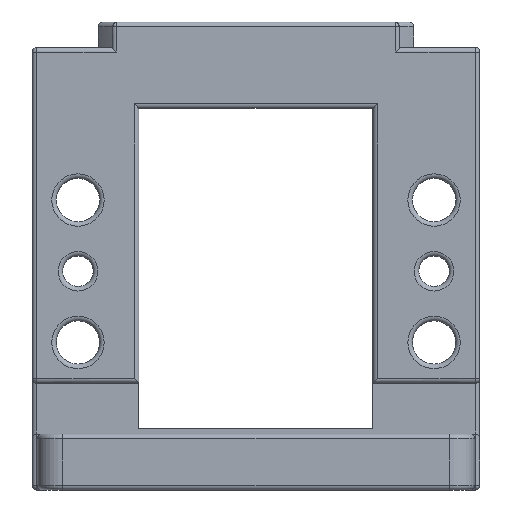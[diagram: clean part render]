
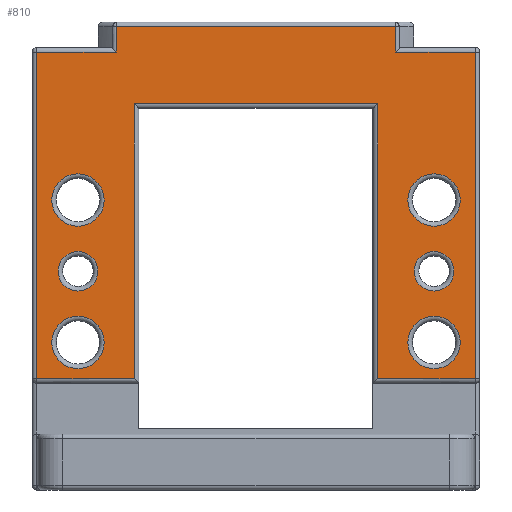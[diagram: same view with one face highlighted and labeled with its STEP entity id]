
A CAD part, front view. The second image highlights one B-rep face of the part: STEP entity #810.
In plain terms, the highlighted planar face has unit normal (0, -1, 0).
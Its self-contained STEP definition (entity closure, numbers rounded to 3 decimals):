
#810=ADVANCED_FACE('',(#1900,#1901,#1902,#1903,#1904,#1905,#1906),#1055,
 .F.);
#1055=PLANE('',#5127);
#1246=LINE('',#6920,#1521);
#1247=LINE('',#6923,#1522);
#1248=LINE('',#6925,#1523);
#1249=LINE('',#6927,#1524);
#1250=LINE('',#6929,#1525);
#1251=LINE('',#6931,#1526);
#1252=LINE('',#6933,#1527);
#1253=LINE('',#6935,#1528);
#1254=LINE('',#6937,#1529);
#1255=LINE('',#6939,#1530);
#1256=LINE('',#6941,#1531);
#1257=LINE('',#6943,#1532);
#1521=VECTOR('',#5728,1.);
#1522=VECTOR('',#5729,1.);
#1523=VECTOR('',#5730,1.);
#1524=VECTOR('',#5731,1.);
#1525=VECTOR('',#5732,1.);
#1526=VECTOR('',#5733,1.);
#1527=VECTOR('',#5734,1.);
#1528=VECTOR('',#5735,1.);
#1529=VECTOR('',#5736,1.);
#1530=VECTOR('',#5737,1.);
#1531=VECTOR('',#5738,1.);
#1532=VECTOR('',#5739,1.);
#1900=FACE_BOUND('',#2076,.T.);
#1901=FACE_BOUND('',#2077,.T.);
#1902=FACE_BOUND('',#2078,.T.);
#1903=FACE_BOUND('',#2079,.T.);
#1904=FACE_BOUND('',#2080,.T.);
#1905=FACE_BOUND('',#2081,.T.);
#1906=FACE_BOUND('',#2082,.T.);
#2076=EDGE_LOOP('',(#2528));
#2077=EDGE_LOOP('',(#2529));
#2078=EDGE_LOOP('',(#2530));
#2079=EDGE_LOOP('',(#2531));
#2080=EDGE_LOOP('',(#2532));
#2081=EDGE_LOOP('',(#2533));
#2082=EDGE_LOOP('',(#2534,#2535,#2536,#2537,#2538,#2539,#2540,#2541,#2542,
#2543,#2544,#2545));
#2528=ORIENTED_EDGE('',*,*,#4196,.T.);
#2529=ORIENTED_EDGE('',*,*,#4194,.T.);
#2530=ORIENTED_EDGE('',*,*,#4192,.T.);
#2531=ORIENTED_EDGE('',*,*,#4190,.T.);
#2532=ORIENTED_EDGE('',*,*,#4188,.T.);
#2533=ORIENTED_EDGE('',*,*,#4186,.T.);
#2534=ORIENTED_EDGE('',*,*,#4290,.T.);
#2535=ORIENTED_EDGE('',*,*,#4291,.T.);
#2536=ORIENTED_EDGE('',*,*,#4292,.T.);
#2537=ORIENTED_EDGE('',*,*,#4293,.T.);
#2538=ORIENTED_EDGE('',*,*,#4294,.T.);
#2539=ORIENTED_EDGE('',*,*,#4295,.T.);
#2540=ORIENTED_EDGE('',*,*,#4296,.T.);
#2541=ORIENTED_EDGE('',*,*,#4297,.T.);
#2542=ORIENTED_EDGE('',*,*,#4298,.T.);
#2543=ORIENTED_EDGE('',*,*,#4299,.T.);
#2544=ORIENTED_EDGE('',*,*,#4300,.T.);
#2545=ORIENTED_EDGE('',*,*,#4301,.T.);
#3733=VERTEX_POINT('',#6636);
#3735=VERTEX_POINT('',#6641);
#3737=VERTEX_POINT('',#6646);
#3739=VERTEX_POINT('',#6651);
#3741=VERTEX_POINT('',#6656);
#3743=VERTEX_POINT('',#6661);
#3837=VERTEX_POINT('',#6921);
#3838=VERTEX_POINT('',#6922);
#3839=VERTEX_POINT('',#6924);
#3840=VERTEX_POINT('',#6926);
#3841=VERTEX_POINT('',#6928);
#3842=VERTEX_POINT('',#6930);
#3843=VERTEX_POINT('',#6932);
#3844=VERTEX_POINT('',#6934);
#3845=VERTEX_POINT('',#6936);
#3846=VERTEX_POINT('',#6938);
#3847=VERTEX_POINT('',#6940);
#3848=VERTEX_POINT('',#6942);
#4186=EDGE_CURVE('',#3733,#3733,#4849,.T.);
#4188=EDGE_CURVE('',#3735,#3735,#4851,.T.);
#4190=EDGE_CURVE('',#3737,#3737,#4853,.T.);
#4192=EDGE_CURVE('',#3739,#3739,#4855,.T.);
#4194=EDGE_CURVE('',#3741,#3741,#4857,.T.);
#4196=EDGE_CURVE('',#3743,#3743,#4859,.T.);
#4290=EDGE_CURVE('',#3837,#3838,#1246,.T.);
#4291=EDGE_CURVE('',#3838,#3839,#1247,.T.);
#4292=EDGE_CURVE('',#3839,#3840,#1248,.T.);
#4293=EDGE_CURVE('',#3840,#3841,#1249,.T.);
#4294=EDGE_CURVE('',#3841,#3842,#1250,.T.);
#4295=EDGE_CURVE('',#3842,#3843,#1251,.T.);
#4296=EDGE_CURVE('',#3843,#3844,#1252,.T.);
#4297=EDGE_CURVE('',#3844,#3845,#1253,.T.);
#4298=EDGE_CURVE('',#3845,#3846,#1254,.T.);
#4299=EDGE_CURVE('',#3846,#3847,#1255,.T.);
#4300=EDGE_CURVE('',#3847,#3848,#1256,.T.);
#4301=EDGE_CURVE('',#3848,#3837,#1257,.T.);
#4849=CIRCLE('',#5018,3.9);
#4851=CIRCLE('',#5021,3.9);
#4853=CIRCLE('',#5024,5.15);
#4855=CIRCLE('',#5027,5.15);
#4857=CIRCLE('',#5030,5.15);
#4859=CIRCLE('',#5033,5.15);
#5018=AXIS2_PLACEMENT_3D('',#6635,#5470,#5471);
#5021=AXIS2_PLACEMENT_3D('',#6640,#5476,#5477);
#5024=AXIS2_PLACEMENT_3D('',#6645,#5482,#5483);
#5027=AXIS2_PLACEMENT_3D('',#6650,#5488,#5489);
#5030=AXIS2_PLACEMENT_3D('',#6655,#5494,#5495);
#5033=AXIS2_PLACEMENT_3D('',#6660,#5500,#5501);
#5127=AXIS2_PLACEMENT_3D('',#6944,#5740,#5741);
#5470=DIRECTION('',(0.,1.,0.));
#5471=DIRECTION('',(0.,0.,1.));
#5476=DIRECTION('',(0.,1.,0.));
#5477=DIRECTION('',(0.,0.,1.));
#5482=DIRECTION('',(0.,1.,0.));
#5483=DIRECTION('',(0.,0.,1.));
#5488=DIRECTION('',(0.,1.,0.));
#5489=DIRECTION('',(0.,0.,1.));
#5494=DIRECTION('',(0.,1.,0.));
#5495=DIRECTION('',(0.,0.,1.));
#5500=DIRECTION('',(0.,1.,0.));
#5501=DIRECTION('',(0.,0.,1.));
#5728=DIRECTION('',(0.,0.,1.));
#5729=DIRECTION('',(1.,0.,0.));
#5730=DIRECTION('',(0.,0.,-1.));
#5731=DIRECTION('',(1.,0.,0.));
#5732=DIRECTION('',(0.,0.,1.));
#5733=DIRECTION('',(-1.,0.,0.));
#5734=DIRECTION('',(0.,0.,1.));
#5735=DIRECTION('',(-1.,0.,0.));
#5736=DIRECTION('',(0.,0.,-1.));
#5737=DIRECTION('',(-1.,0.,0.));
#5738=DIRECTION('',(0.,0.,-1.));
#5739=DIRECTION('',(1.,0.,0.));
#5740=DIRECTION('',(0.,1.,0.));
#5741=DIRECTION('',(0.,0.,-1.));
#6635=CARTESIAN_POINT('',(-35.,-28.,37.));
#6636=CARTESIAN_POINT('',(-35.,-28.,40.9));
#6640=CARTESIAN_POINT('',(35.,-28.,37.));
#6641=CARTESIAN_POINT('',(35.,-28.,40.9));
#6645=CARTESIAN_POINT('',(-35.,-28.,23.));
#6646=CARTESIAN_POINT('',(-35.,-28.,28.15));
#6650=CARTESIAN_POINT('',(35.,-28.,23.));
#6651=CARTESIAN_POINT('',(35.,-28.,28.15));
#6655=CARTESIAN_POINT('',(35.,-28.,51.));
#6656=CARTESIAN_POINT('',(35.,-28.,56.15));
#6660=CARTESIAN_POINT('',(-35.,-28.,51.));
#6661=CARTESIAN_POINT('',(-35.,-28.,56.15));
#6920=CARTESIAN_POINT('',(-23.9,-28.,81.));
#6921=CARTESIAN_POINT('',(-23.9,-28.,15.9));
#6922=CARTESIAN_POINT('',(-23.9,-28.,69.9));
#6923=CARTESIAN_POINT('',(23.,-28.,69.9));
#6924=CARTESIAN_POINT('',(23.9,-28.,69.9));
#6925=CARTESIAN_POINT('',(23.9,-28.,15.));
#6926=CARTESIAN_POINT('',(23.9,-28.,15.9));
#6927=CARTESIAN_POINT('',(43.,-28.,15.9));
#6928=CARTESIAN_POINT('',(43.1,-28.,15.9));
#6929=CARTESIAN_POINT('',(43.1,-28.,81.));
#6930=CARTESIAN_POINT('',(43.1,-28.,80.1));
#6931=CARTESIAN_POINT('',(27.861,-28.,80.1));
#6932=CARTESIAN_POINT('',(27.487,-28.,80.1));
#6933=CARTESIAN_POINT('',(27.487,-28.,86.));
#6934=CARTESIAN_POINT('',(27.487,-28.,85.1));
#6935=CARTESIAN_POINT('',(-27.861,-28.,85.1));
#6936=CARTESIAN_POINT('',(-27.487,-28.,85.1));
#6937=CARTESIAN_POINT('',(-27.487,-28.,81.));
#6938=CARTESIAN_POINT('',(-27.487,-28.,80.1));
#6939=CARTESIAN_POINT('',(-44.,-28.,80.1));
#6940=CARTESIAN_POINT('',(-43.1,-28.,80.1));
#6941=CARTESIAN_POINT('',(-43.1,-28.,81.));
#6942=CARTESIAN_POINT('',(-43.1,-28.,15.9));
#6943=CARTESIAN_POINT('',(43.,-28.,15.9));
#6944=CARTESIAN_POINT('',(43.,-28.,81.));
